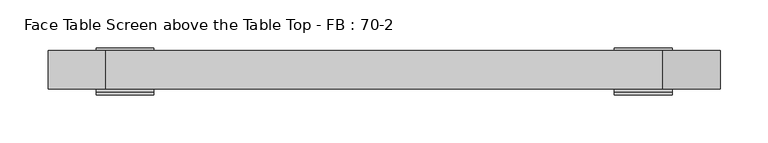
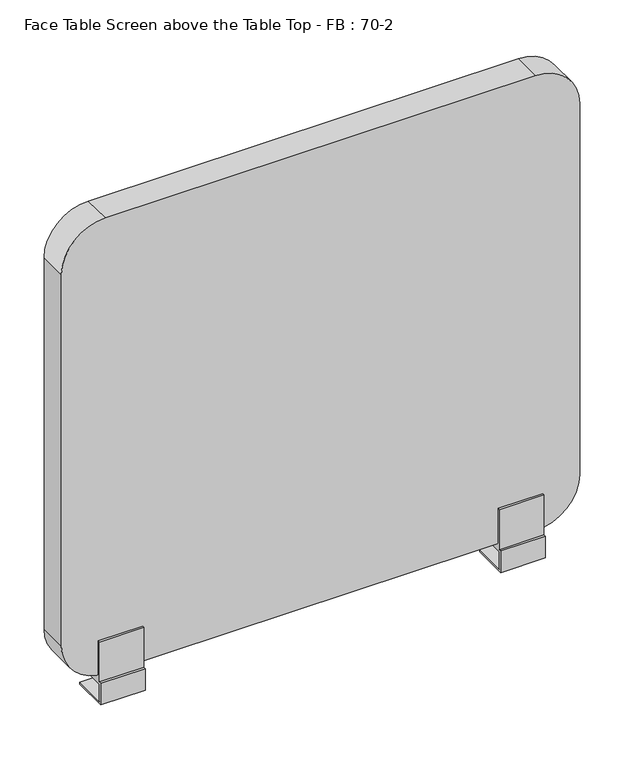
"""IFC4 building model written with IfcOpenShell, lengths in millimetres: furniture geometry, Face Table Screen above the Table Top - FB : 70-2."""

import ifcopenshell
import ifcopenshell.guid

model = None  # the IFC model being written
_history = None  # IfcOwnerHistory: only IFC2X3 demands one
_inside = {}  # id of a spatial element -> (the spatial element, [elements in it])
_under = {}  # id of a project, library or spatial element -> (it, [spatial elements below it])
_declared = {}  # id of a project -> (the project, [libraries it declares])
_typed = {}  # id of a type object -> (the type object, [elements of that type])
_made_of = {}  # id of a material, layer set ... -> (it, [elements and type objects made of it])


def new_model(schema):
    """Start an empty IFC model of exactly this schema.

    Asked for "IFC4X3", IfcOpenShell would pick the latest addendum, in which some entities
    have other attributes; the version numbers below select the first issue.
    IFC2X3 requires an IfcOwnerHistory on every rooted entity: one is made here for all.
    """
    global model, _history
    if schema == "IFC4X3":
        model = ifcopenshell.file(schema_version=(4, 3, 0, 0))
    else:
        model = ifcopenshell.file(schema=schema)
    _inside.clear()
    _under.clear()
    _declared.clear()
    _typed.clear()
    _made_of.clear()
    _history = None
    if model.schema == "IFC2X3":
        org = make("IfcOrganization", Name="unknown")
        user = make(
            "IfcPersonAndOrganization",
            ThePerson=make("IfcPerson", FamilyName="unknown"),
            TheOrganization=org,
        )
        app = make(
            "IfcApplication",
            ApplicationDeveloper=org,
            Version="unknown",
            ApplicationFullName="unknown",
            ApplicationIdentifier="unknown",
        )
        _history = make(
            "IfcOwnerHistory",
            OwningUser=user,
            OwningApplication=app,
            ChangeAction="ADDED",
            CreationDate=0,
        )
    return model


def make(cls, **values):
    """One entity of the class cls with the attributes given. An attribute that is None is left unset."""
    return model.create_entity(
        cls, **{name: value for name, value in values.items() if value is not None}
    )


def rooted(cls, **values):
    """An entity with a GlobalId (a new one), such as an element, a storey or a relation."""
    return make(cls, GlobalId=ifcopenshell.guid.new(), OwnerHistory=_history, **values)


def si_unit(unit_type, name, prefix=None):
    """IfcSIUnit, for example si_unit("LENGTHUNIT", "METRE", prefix="MILLI")."""
    return make("IfcSIUnit", UnitType=unit_type, Prefix=prefix, Name=name)


def assignment(units):
    """IfcUnitAssignment: the units of a project."""
    return None if units is None else make("IfcUnitAssignment", Units=units)


def point(xyz):
    """IfcCartesianPoint."""
    return None if xyz is None else make("IfcCartesianPoint", Coordinates=xyz)


def direction(xyz):
    """IfcDirection."""
    return None if xyz is None else make("IfcDirection", DirectionRatios=xyz)


def frame(location, z_axis=None, x_axis=None):
    """IfcAxis2Placement3D, a coordinate frame: its origin and axes. An axis left out is left unset."""
    return make(
        "IfcAxis2Placement3D",
        Location=point(location),
        Axis=direction(z_axis),
        RefDirection=direction(x_axis),
    )


def frame_2d(location, x_axis=None):
    """IfcAxis2Placement2D, a coordinate frame in the plane: its origin and x axis."""
    return make(
        "IfcAxis2Placement2D", Location=point(location), RefDirection=direction(x_axis)
    )


def origin():
    """The frame at (0, 0, 0) with its axes left unset."""
    return frame((0.0, 0.0, 0.0))


def place(relative_to, where):
    """IfcLocalPlacement: puts the frame where relative to a parent placement (None: the world)."""
    return make(
        "IfcLocalPlacement", PlacementRelTo=relative_to, RelativePlacement=where
    )


def context(
    kind, dimensions, precision=None, world=None, true_north=None, identifier=None
):
    """IfcGeometricRepresentationContext, for example the 3D "Model" context."""
    return make(
        "IfcGeometricRepresentationContext",
        ContextIdentifier=identifier,
        ContextType=kind,
        CoordinateSpaceDimension=dimensions,
        Precision=precision,
        WorldCoordinateSystem=world,
        TrueNorth=true_north,
    )


def project(units=None, contexts=None):
    """IfcProject with its units and contexts."""
    return rooted(
        "IfcProject",
        Name="project",
        RepresentationContexts=contexts,
        UnitsInContext=assignment(units),
    )


def spatial(cls, under=None, at=None, **own):
    """A site, building, storey or space (cls), placed at a placement, below another one or the project."""
    s = rooted(cls, ObjectPlacement=at, **own)
    if under is not None:
        _under.setdefault(under.id(), (under, []))[1].append(s)
    return s


def polyline(points):
    """IfcPolyline through the points."""
    return make("IfcPolyline", Points=[point(p) for p in points])


def circle_curve(where, radius):
    """IfcCircle in the frame where."""
    return make("IfcCircle", Position=where, Radius=radius)


def trimmed(basis, trim1, trim2, sense, master):
    """IfcTrimmedCurve: the piece of a basis curve between two trims."""
    return make(
        "IfcTrimmedCurve",
        BasisCurve=basis,
        Trim1=trim1,
        Trim2=trim2,
        SenseAgreement=sense,
        MasterRepresentation=master,
    )


def segment(curve, same_sense, transition):
    """IfcCompositeCurveSegment."""
    return make(
        "IfcCompositeCurveSegment",
        Transition=transition,
        SameSense=same_sense,
        ParentCurve=curve,
    )


def composite_curve(segments, self_intersect=None):
    """IfcCompositeCurve: segments joined end to end."""
    return make("IfcCompositeCurve", Segments=segments, SelfIntersect=self_intersect)


def outline(outer, holes=None, kind="AREA"):
    """IfcArbitraryClosedProfileDef: a profile drawn as a closed curve; with holes, ...WithVoids."""
    if holes is None:
        return make("IfcArbitraryClosedProfileDef", ProfileType=kind, OuterCurve=outer)
    return make(
        "IfcArbitraryProfileDefWithVoids",
        ProfileType=kind,
        OuterCurve=outer,
        InnerCurves=holes,
    )


def extrude(swept, where, along, depth):
    """IfcExtrudedAreaSolid: the profile swept, set in the frame where, extruded along a direction by depth."""
    return make(
        "IfcExtrudedAreaSolid",
        SweptArea=swept,
        Position=where,
        ExtrudedDirection=direction(along),
        Depth=depth,
    )


def shape(context_of_items, identifier, shape_type, items):
    """IfcShapeRepresentation: the items that make up one representation, for example the "Body"."""
    return make(
        "IfcShapeRepresentation",
        ContextOfItems=context_of_items,
        RepresentationIdentifier=identifier,
        RepresentationType=shape_type,
        Items=items,
    )


def source(mapping_origin, context_of_items, identifier, shape_type, items):
    """IfcRepresentationMap: a shape defined once, which mapped items show again and again."""
    return make(
        "IfcRepresentationMap",
        MappingOrigin=mapping_origin,
        MappedRepresentation=shape(context_of_items, identifier, shape_type, items),
    )


def transform(
    local_origin,
    x_axis=None,
    y_axis=None,
    z_axis=None,
    scale=None,
    scale2=None,
    scale3=None,
    uniform=True,
):
    """IfcCartesianTransformationOperator3D, or its non-uniform kind. x_axis, y_axis, z_axis: its Axis1, 2, 3."""
    if uniform:
        return make(
            "IfcCartesianTransformationOperator3D",
            Axis1=direction(x_axis),
            Axis2=direction(y_axis),
            LocalOrigin=point(local_origin),
            Scale=scale,
            Axis3=direction(z_axis),
        )
    return make(
        "IfcCartesianTransformationOperator3DnonUniform",
        Axis1=direction(x_axis),
        Axis2=direction(y_axis),
        LocalOrigin=point(local_origin),
        Scale=scale,
        Axis3=direction(z_axis),
        Scale2=scale2,
        Scale3=scale3,
    )


def mapped(mapping_source, mapping_target):
    """IfcMappedItem: shows the shape of a source again, moved by a transform."""
    return make(
        "IfcMappedItem", MappingSource=mapping_source, MappingTarget=mapping_target
    )


def made_of(thing, what):
    """Note that an element or type object is made of a material, layer set ...; save() writes the relation."""
    if what is not None:
        _made_of.setdefault(what.id(), (what, []))[1].append(thing)
    return thing


def element(
    cls,
    number,
    at=None,
    inside=None,
    cuts=None,
    type_object=None,
    material=None,
    context=None,
    identifier="Body",
    shape_type=None,
    held_by="IfcProductDefinitionShape",
    body=None,
    shapes=None,
    **own,
):
    """One element of the class cls, such as IfcWall. Its Tag is "e" and its number.

    at: its placement. inside: the storey or other place that contains it. cuts: it is an
    opening in that element (IfcRelVoidsElement). A single representation is given by context,
    identifier, shape_type and body (its items); several are given by shapes. held_by: the class
    of the entity that holds the representations. save() writes the other relations.
    """
    e = rooted(cls, Tag="e%d" % number, ObjectPlacement=at, **own)
    if body is not None:
        shapes = [shape(context, identifier, shape_type, body)]
    if shapes is not None:
        e.Representation = make(held_by, Representations=shapes)
    if inside is not None:
        _inside.setdefault(inside.id(), (inside, []))[1].append(e)
    if cuts is not None:
        rooted(
            "IfcRelVoidsElement", RelatingBuildingElement=cuts, RelatedOpeningElement=e
        )
    if type_object is not None:
        _typed.setdefault(type_object.id(), (type_object, []))[1].append(e)
    return made_of(e, material)


def aggregate(whole, parts):
    """IfcRelAggregates: a whole, such as a stair, and the parts it consists of."""
    return rooted("IfcRelAggregates", RelatingObject=whole, RelatedObjects=parts)


def save(model, path):
    """Write the relations noted so far, then the file.

    IfcRelAggregates (storeys below a building ...), IfcRelContainedInSpatialStructure (elements
    in a storey), IfcRelDefinesByType, IfcRelAssociatesMaterial and IfcRelDeclares: one each for
    every whole, place, type object, material and project.
    """
    for whole, parts in _under.values():
        aggregate(whole, parts)
    for where, things in _inside.values():
        rooted(
            "IfcRelContainedInSpatialStructure",
            RelatedElements=things,
            RelatingStructure=where,
        )
    for kind, things in _typed.values():
        rooted("IfcRelDefinesByType", RelatedObjects=things, RelatingType=kind)
    for what, things in _made_of.values():
        rooted("IfcRelAssociatesMaterial", RelatedObjects=things, RelatingMaterial=what)
    for by, libraries in _declared.values():
        rooted("IfcRelDeclares", RelatingContext=by, RelatedDefinitions=libraries)
    model.write(path)


def plane_surface(at):
    """IfcPlane: the flat surface through the origin of the frame at, square to its z axis."""
    return make("IfcPlane", Position=at)


def cylinder_surface(at, radius):
    """IfcCylindricalSurface: all points at the distance radius from the z axis of the frame at."""
    return make("IfcCylindricalSurface", Position=at, Radius=radius)


def advanced_brep(points, edges, surfaces, faces):
    """IfcAdvancedBrep: a solid bounded by faces that lie on surfaces and meet in shared edges.

    An edge is (start, end): straight between two places in points (the first is 0);
    or (start, end, curve); or (start, end, curve, False) where it runs against its curve.
    A face is (place in surfaces, loops), or (place, loops, False) where it looks against
    its surface's normal. A loop lists edges by number (the first is 1), with a minus sign
    where the edge is run from its end to its start. The first loop is the outer one.
    """
    corners = [point(p) for p in points]
    vertices = [make("IfcVertexPoint", VertexGeometry=c) for c in corners]
    made = []
    for start, end, *more in edges:
        made.append(
            make(
                "IfcEdgeCurve",
                EdgeStart=vertices[start],
                EdgeEnd=vertices[end],
                EdgeGeometry=more[0] if more else make("IfcPolyline", Points=[corners[start], corners[end]]),
                SameSense=more[1] if len(more) > 1 else True,
            )
        )
    hull = []
    for where, loops, *sense in faces:
        bounds = []
        for j, loop in enumerate(loops):
            ring = [make("IfcOrientedEdge", EdgeElement=made[abs(k) - 1], Orientation=k > 0) for k in loop]
            bounds.append(
                make(
                    "IfcFaceOuterBound" if j == 0 else "IfcFaceBound",
                    Bound=make("IfcEdgeLoop", EdgeList=ring),
                    Orientation=True,
                )
            )
        hull.append(make("IfcAdvancedFace", Bounds=bounds, FaceSurface=surfaces[where], SameSense=sense[0] if sense else True))
    return make("IfcAdvancedBrep", Outer=make("IfcClosedShell", CfsFaces=hull))


def face_table_screen_above_the_table_top_fb_70_2_6fc3c95c(model_context):
    return source(origin(), model_context, "Body", "SolidModel", [
        advanced_brep(
        [(-275.0, 20.0, -39.4406633), (-265.0, 20.0, -39.4406633), (-265.0, 20.0, -28.0), (-275.0, 20.0, -28.0), (-300.0, 43.0, -25.0), (-300.0, -3.0, -25.0), (-240.0, -3.0, -25.0), (-240.0, 43.0, -25.0), (-300.0, -3.0, 0.0), (-300.0, 43.0, -28.0), (-300.0, -6.0, -28.0), (-300.0, -6.0, 3.0), (-300.0, -3.0, 3.0), (-300.0, -3.0, 60.0), (-300.0, 0.0, 60.0), (-300.0, 0.0, 10.0), (-300.0, 40.0, 10.0), (-300.0, 40.0, 60.0), (-300.0, 43.0, 60.0), (-300.0, 43.0, 0.0), (-240.0, -3.0, 0.0), (-240.0, 43.0, 0.0), (-240.0, 43.0, 60.0), (-240.0, 40.0, 60.0), (-240.0, 40.0, 10.0), (-240.0, 0.0, 10.0), (-240.0, 0.0, 60.0), (-240.0, -3.0, 60.0), (-240.0, -3.0, 3.0), (-240.0, -6.0, 3.0), (-240.0, -6.0, -28.0), (-240.0, 43.0, -28.0)],
        [
            (0, 1, circle_curve(frame((-270.0, 20.0, -39.4406633), z_axis=(0.0, 0.0, -1.0), x_axis=(1.0, 0.0, 0.0)), 5.0)),
            (1, 0, circle_curve(frame((-270.0, 20.0, -39.4406633), z_axis=(0.0, 0.0, -1.0), x_axis=(1.0, 0.0, 0.0)), 5.0)),
            (1, 2),
            (2, 3, circle_curve(frame((-270.0, 20.0, -28.0), z_axis=(0.0, 0.0, -1.0), x_axis=(1.0, 0.0, 0.0)), 5.0)),
            (3, 0),
            (3, 2, circle_curve(frame((-270.0, 20.0, -28.0), z_axis=(0.0, 0.0, -1.0), x_axis=(1.0, 0.0, 0.0)), 5.0)),
            (4, 5),
            (5, 6),
            (6, 7),
            (7, 4),
            (8, 5),
            (4, 9),
            (9, 10),
            (10, 11),
            (11, 12),
            (12, 13),
            (13, 14),
            (14, 15),
            (15, 16),
            (16, 17),
            (17, 18),
            (18, 19),
            (19, 8),
            (20, 21),
            (21, 22),
            (22, 23),
            (23, 24),
            (24, 25),
            (25, 26),
            (26, 27),
            (27, 28),
            (28, 29),
            (29, 30),
            (30, 31),
            (31, 7),
            (6, 20),
            (19, 21),
            (20, 8),
            (18, 22),
            (17, 23),
            (16, 24),
            (15, 25),
            (14, 26),
            (13, 27),
            (12, 28),
            (11, 29),
            (10, 30),
            (9, 31),
        ],
        [
            plane_surface(frame((-265.0, 20.0, -39.4406633), z_axis=(0.0, 0.0, -1.0), x_axis=(0.0, -1.0, 0.0))),
            cylinder_surface(frame((-270.0, 20.0, -39.4406633), z_axis=(0.0, 0.0, 1.0), x_axis=(1.0, 0.0, 0.0)), 5.0),
            plane_surface(frame((-265.0, 20.0, -25.0), z_axis=(0.0, 0.0, 1.0), x_axis=(0.0, 1.0, 0.0))),
            plane_surface(frame((-300.0, 43.0, 0.0), z_axis=(-1.0, 0.0, 0.0), x_axis=(0.0, -1.0, 0.0))),
            plane_surface(frame((-240.0, 43.0, 0.0), z_axis=(1.0, 0.0, 0.0), x_axis=(0.0, 1.0, 0.0))),
            plane_surface(frame((-240.0, -3.0, 0.0), z_axis=(0.0, 0.0, -1.0), x_axis=(-1.0, 0.0, 0.0))),
            plane_surface(frame((-240.0, 43.0, 0.0), z_axis=(0.0, 1.0, 0.0), x_axis=(-1.0, 0.0, 0.0))),
            plane_surface(frame((-240.0, 43.0, 60.0), z_axis=(0.0, 0.0, 1.0), x_axis=(-1.0, 0.0, 0.0))),
            plane_surface(frame((-240.0, 40.0, 60.0), z_axis=(0.0, -1.0, 0.0), x_axis=(-1.0, 0.0, 0.0))),
            plane_surface(frame((-240.0, 40.0, 10.0), z_axis=(0.0, 0.0, 1.0), x_axis=(-1.0, 0.0, 0.0))),
            plane_surface(frame((-240.0, 0.0, 10.0), z_axis=(0.0, 1.0, 0.0), x_axis=(-1.0, 0.0, 0.0))),
            plane_surface(frame((-240.0, 0.0, 60.0), z_axis=(0.0, 0.0, 1.0), x_axis=(-1.0, 0.0, 0.0))),
            plane_surface(frame((-240.0, -3.0, 60.0), z_axis=(0.0, -1.0, 0.0), x_axis=(-1.0, 0.0, 0.0))),
            plane_surface(frame((-240.0, -3.0, 3.0), z_axis=(0.0, 0.0, 1.0), x_axis=(-1.0, 0.0, 0.0))),
            plane_surface(frame((-240.0, -6.0, 3.0), z_axis=(0.0, -1.0, 0.0), x_axis=(-1.0, 0.0, 0.0))),
            plane_surface(frame((-240.0, -6.0, -28.0), z_axis=(0.0, 0.0, -1.0), x_axis=(-1.0, 0.0, 0.0))),
            plane_surface(frame((-240.0, 43.0, -28.0), z_axis=(0.0, 1.0, 0.0), x_axis=(-1.0, 0.0, 0.0))),
            plane_surface(frame((-240.0, -3.0, -25.0), z_axis=(0.0, 1.0, 0.0), x_axis=(-1.0, 0.0, 0.0))),
        ],
        [
            (0, [[1, 2]]),
            (1, [[-2, 3, 4, 5]]),
            (1, [[-1, -5, 6, -3]]),
            (2, [[7, 8, 9, 10]]),
            (3, [[11, -7, 12, 13, 14, 15, 16, 17, 18, 19, 20, 21, 22, 23]]),
            (4, [[24, 25, 26, 27, 28, 29, 30, 31, 32, 33, 34, 35, -9, 36]]),
            (5, [[-23, 37, -24, 38]]),
            (6, [[-22, 39, -25, -37]]),
            (7, [[-21, 40, -26, -39]]),
            (8, [[-20, 41, -27, -40]]),
            (9, [[-19, 42, -28, -41]]),
            (10, [[-18, 43, -29, -42]]),
            (11, [[-17, 44, -30, -43]]),
            (12, [[-16, 45, -31, -44]]),
            (13, [[-15, 46, -32, -45]]),
            (14, [[-14, 47, -33, -46]]),
            (15, [[-13, 48, -34, -47], [-4, -6]]),
            (16, [[-12, -10, -35, -48]]),
            (17, [[-11, -38, -36, -8]]),
        ],
    ),
        advanced_brep(
        [(265.0, 20.0, -39.4406633), (275.0, 20.0, -39.4406633), (275.0, 20.0, -28.0), (265.0, 20.0, -28.0), (240.0, 43.0, -25.0), (240.0, -3.0, -25.0), (300.0, -3.0, -25.0), (300.0, 43.0, -25.0), (240.0, -3.0, 0.0), (240.0, 43.0, -28.0), (240.0, -6.0, -28.0), (240.0, -6.0, 3.0), (240.0, -3.0, 3.0), (240.0, -3.0, 60.0), (240.0, 0.0, 60.0), (240.0, 0.0, 10.0), (240.0, 40.0, 10.0), (240.0, 40.0, 60.0), (240.0, 43.0, 60.0), (240.0, 43.0, 0.0), (300.0, -3.0, 0.0), (300.0, 43.0, 0.0), (300.0, 43.0, 60.0), (300.0, 40.0, 60.0), (300.0, 40.0, 10.0), (300.0, 0.0, 10.0), (300.0, 0.0, 60.0), (300.0, -3.0, 60.0), (300.0, -3.0, 3.0), (300.0, -6.0, 3.0), (300.0, -6.0, -28.0), (300.0, 43.0, -28.0)],
        [
            (0, 1, circle_curve(frame((270.0, 20.0, -39.4406633), z_axis=(0.0, 0.0, -1.0), x_axis=(1.0, 0.0, 0.0)), 5.0)),
            (1, 0, circle_curve(frame((270.0, 20.0, -39.4406633), z_axis=(0.0, 0.0, -1.0), x_axis=(1.0, 0.0, 0.0)), 5.0)),
            (1, 2),
            (2, 3, circle_curve(frame((270.0, 20.0, -28.0), z_axis=(0.0, 0.0, -1.0), x_axis=(1.0, 0.0, 0.0)), 5.0)),
            (3, 0),
            (3, 2, circle_curve(frame((270.0, 20.0, -28.0), z_axis=(0.0, 0.0, -1.0), x_axis=(1.0, 0.0, 0.0)), 5.0)),
            (4, 5),
            (5, 6),
            (6, 7),
            (7, 4),
            (8, 5),
            (4, 9),
            (9, 10),
            (10, 11),
            (11, 12),
            (12, 13),
            (13, 14),
            (14, 15),
            (15, 16),
            (16, 17),
            (17, 18),
            (18, 19),
            (19, 8),
            (20, 21),
            (21, 22),
            (22, 23),
            (23, 24),
            (24, 25),
            (25, 26),
            (26, 27),
            (27, 28),
            (28, 29),
            (29, 30),
            (30, 31),
            (31, 7),
            (6, 20),
            (19, 21),
            (20, 8),
            (18, 22),
            (17, 23),
            (16, 24),
            (15, 25),
            (14, 26),
            (13, 27),
            (12, 28),
            (11, 29),
            (10, 30),
            (9, 31),
        ],
        [
            plane_surface(frame((275.0, 20.0, -39.4406633), z_axis=(0.0, 0.0, -1.0), x_axis=(0.0, -1.0, 0.0))),
            cylinder_surface(frame((270.0, 20.0, -39.4406633), z_axis=(0.0, 0.0, 1.0), x_axis=(1.0, 0.0, 0.0)), 5.0),
            plane_surface(frame((275.0, 20.0, -25.0), z_axis=(0.0, 0.0, 1.0), x_axis=(0.0, 1.0, 0.0))),
            plane_surface(frame((240.0, 43.0, 0.0), z_axis=(-1.0, 0.0, 0.0), x_axis=(0.0, -1.0, 0.0))),
            plane_surface(frame((300.0, 43.0, 0.0), z_axis=(1.0, 0.0, 0.0), x_axis=(0.0, 1.0, 0.0))),
            plane_surface(frame((300.0, -3.0, 0.0), z_axis=(0.0, 0.0, -1.0), x_axis=(-1.0, 0.0, 0.0))),
            plane_surface(frame((300.0, 43.0, 0.0), z_axis=(0.0, 1.0, 0.0), x_axis=(-1.0, 0.0, 0.0))),
            plane_surface(frame((300.0, 43.0, 60.0), z_axis=(0.0, 0.0, 1.0), x_axis=(-1.0, 0.0, 0.0))),
            plane_surface(frame((300.0, 40.0, 60.0), z_axis=(0.0, -1.0, 0.0), x_axis=(-1.0, 0.0, 0.0))),
            plane_surface(frame((300.0, 40.0, 10.0), z_axis=(0.0, 0.0, 1.0), x_axis=(-1.0, 0.0, 0.0))),
            plane_surface(frame((300.0, 0.0, 10.0), z_axis=(0.0, 1.0, 0.0), x_axis=(-1.0, 0.0, 0.0))),
            plane_surface(frame((300.0, 0.0, 60.0), z_axis=(0.0, 0.0, 1.0), x_axis=(-1.0, 0.0, 0.0))),
            plane_surface(frame((300.0, -3.0, 60.0), z_axis=(0.0, -1.0, 0.0), x_axis=(-1.0, 0.0, 0.0))),
            plane_surface(frame((300.0, -3.0, 3.0), z_axis=(0.0, 0.0, 1.0), x_axis=(-1.0, 0.0, 0.0))),
            plane_surface(frame((300.0, -6.0, 3.0), z_axis=(0.0, -1.0, 0.0), x_axis=(-1.0, 0.0, 0.0))),
            plane_surface(frame((300.0, -6.0, -28.0), z_axis=(0.0, 0.0, -1.0), x_axis=(-1.0, 0.0, 0.0))),
            plane_surface(frame((300.0, 43.0, -28.0), z_axis=(0.0, 1.0, 0.0), x_axis=(-1.0, 0.0, 0.0))),
            plane_surface(frame((300.0, -3.0, -25.0), z_axis=(0.0, 1.0, 0.0), x_axis=(-1.0, 0.0, 0.0))),
        ],
        [
            (0, [[1, 2]]),
            (1, [[-2, 3, 4, 5]]),
            (1, [[-1, -5, 6, -3]]),
            (2, [[7, 8, 9, 10]]),
            (3, [[11, -7, 12, 13, 14, 15, 16, 17, 18, 19, 20, 21, 22, 23]]),
            (4, [[24, 25, 26, 27, 28, 29, 30, 31, 32, 33, 34, 35, -9, 36]]),
            (5, [[-23, 37, -24, 38]]),
            (6, [[-22, 39, -25, -37]]),
            (7, [[-21, 40, -26, -39]]),
            (8, [[-20, 41, -27, -40]]),
            (9, [[-19, 42, -28, -41]]),
            (10, [[-18, 43, -29, -42]]),
            (11, [[-17, 44, -30, -43]]),
            (12, [[-16, 45, -31, -44]]),
            (13, [[-15, 46, -32, -45]]),
            (14, [[-14, 47, -33, -46]]),
            (15, [[-13, 48, -34, -47], [-4, -6]]),
            (16, [[-12, -10, -35, -48]]),
            (17, [[-11, -38, -36, -8]]),
        ],
    ),
        extrude(outline(composite_curve([segment(polyline([(660.0, 290.0), (660.0, -290.0)]), True, "CONTINUOUS"), segment(trimmed(circle_curve(frame_2d((600.0, -290.0)), 60.0), [point((660.0, -290.0))], [point((600.0, -350.0))], False, "CARTESIAN"), True, "CONTINUOUS"), segment(polyline([(600.0, -350.0), (70.0, -350.0)]), True, "CONTINUOUS"), segment(trimmed(circle_curve(frame_2d((70.0, -290.0)), 60.0), [point((70.0, -350.0))], [point((10.0, -290.0))], False, "CARTESIAN"), True, "CONTINUOUS"), segment(polyline([(10.0, -290.0), (10.0, 290.0)]), True, "CONTINUOUS"), segment(trimmed(circle_curve(frame_2d((70.0, 290.0)), 60.0), [point((10.0, 290.0))], [point((70.0, 350.0))], False, "CARTESIAN"), True, "CONTINUOUS"), segment(polyline([(70.0, 350.0), (600.0, 350.0)]), True, "CONTINUOUS"), segment(trimmed(circle_curve(frame_2d((600.0, 290.0)), 60.0), [point((600.0, 350.0))], [point((660.0, 290.0))], False, "CARTESIAN"), True, "CONTINUOUS")], self_intersect=False)), frame((0.0, 0.0, 0.0), z_axis=(0.0, 1.0, 0.0), x_axis=(0.0, 0.0, 1.0)), (0.0, 0.0, 1.0), 40.0),
    ])


if __name__ == "__main__":
    model = new_model("IFC4")
    model_context = context("Model", 3, world=origin())
    ifc_project = project(units=[si_unit("LENGTHUNIT", "METRE", prefix="MILLI")], contexts=[model_context])
    site = spatial("IfcSite", under=ifc_project)
    building = spatial("IfcBuilding", under=site)
    placement = place(None, origin())
    face_table_screen_above_the_table_top_fb_70_2_shape = face_table_screen_above_the_table_top_fb_70_2_6fc3c95c(model_context)
    element("IfcFurniture", 1, ObjectType="Face Table Screen above the Table Top - FB : 70-2", at=placement, inside=building, context=model_context, shape_type="MappedRepresentation", body=[
        mapped(face_table_screen_above_the_table_top_fb_70_2_shape, transform((0.0, 0.0, 0.0), x_axis=(1.0, 0.0, 0.0), y_axis=(0.0, 1.0, 0.0), z_axis=(0.0, 0.0, 1.0))),
    ])
    save(model, "model.ifc")
